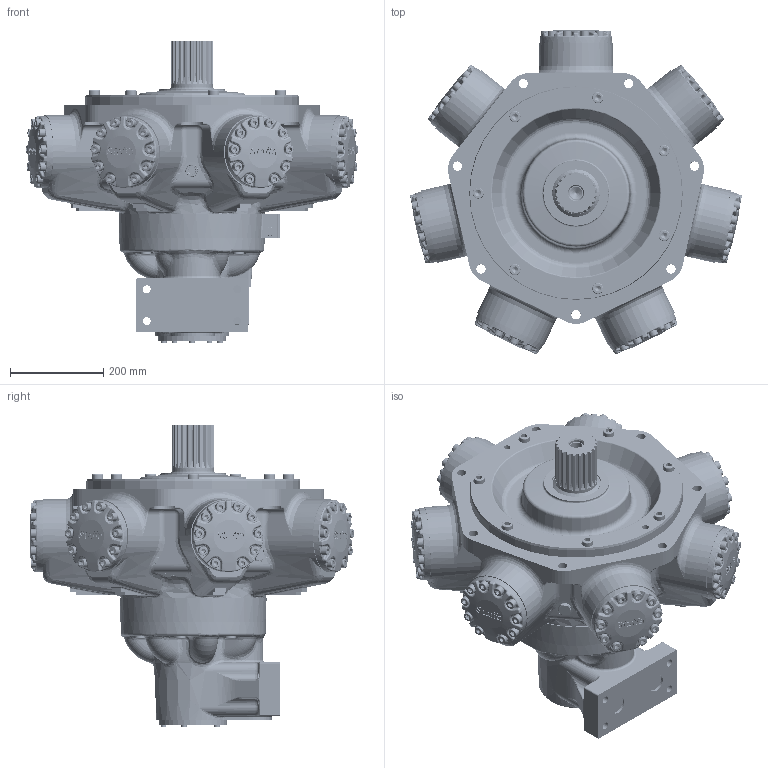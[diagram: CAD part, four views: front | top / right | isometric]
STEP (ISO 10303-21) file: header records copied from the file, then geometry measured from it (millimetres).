
FILE_DESCRIPTION(/* description */ (''),/* implementation_level */ '2;1');
FILE_NAME(/* name */ 'HMC270_Z_SM4_CS.stp',/* time_stamp */ '2025-06-16T14:50:24+01:00',/* author */ ('ccallanga'),/* organization */ (''),/* preprocessor_version */ 'ST-DEVELOPER v20',/* originating_system */ 'Autodesk Inventor 2024',/* authorisation */ '');
FILE_SCHEMA (('AUTOMOTIVE_DESIGN { 1 0 10303 214 3 1 1 }'));
Products named in the file (1): 017752 HMC270 Web Assembly_Simplify_1
Bounding box: 711.04 x 695.71 x 648.79 mm (x, y, z)
Volume: 73124081.7 mm3; surface area: 1699130.1 mm2
Topology: 1 solids, 1 shells, 7005 faces, 17240 edges, 10321 vertices
Faces by surface type: bspline 2703, plane 2053, cylinder 1356, torus 523, cone 194, sphere 176
Full cylindrical faces by diameter (mm): 2.2 x4, 4 x1, 4.134 x4, 5.5 x4, 6.05 x2, 6.5 x1, 7 x1, 9.4 x3, 11.913 x5, 12 x3, 12.7 x5, 14.351 x2, 16.51 x1, 17 x4, 19 x1, 19.05 x70, 20 x7, 20.637 x70, 23.825 x14, 25 x5, 25.4 x14, 26.211 x1, 26.92 x2, 28.75 x1, 30.48 x1, 38 x2, 38.1 x3, 90 x1, 101.575 x1, 106.68 x1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
Entity records: 307831 total; most frequent: CARTESIAN_POINT 155926, ORIENTED_EDGE 33862, DIRECTION 23761, EDGE_CURVE 16931, VERTEX_POINT 10321, AXIS2_PLACEMENT_3D 8913, EDGE_LOOP 7420, STYLED_ITEM 7006
